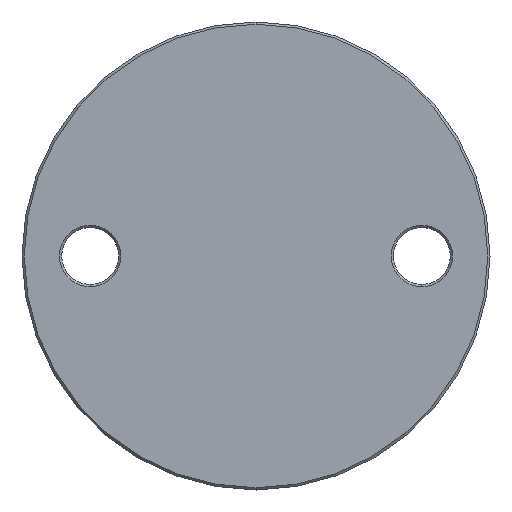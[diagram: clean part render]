
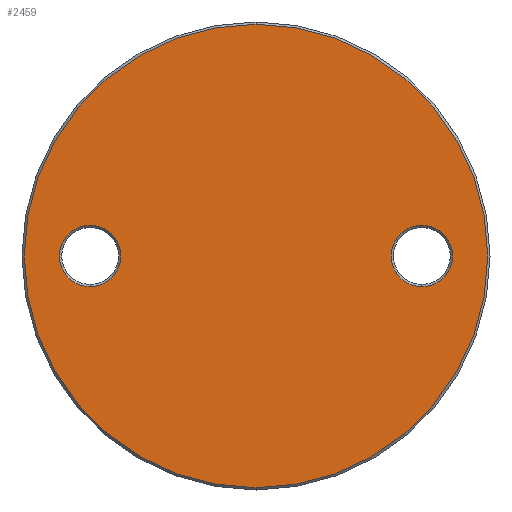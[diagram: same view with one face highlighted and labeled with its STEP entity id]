
A CAD part, front view. The second image highlights one B-rep face of the part: STEP entity #2459.
In plain terms, the highlighted planar face has unit normal (0, -1, 0).
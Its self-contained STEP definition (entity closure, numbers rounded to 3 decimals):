
#8 = DIRECTION ( 'NONE',  ( 0., 0., -1. ) ) ;
#97 = ORIENTED_EDGE ( 'NONE', *, *, #5757, .T. ) ;
#287 = AXIS2_PLACEMENT_3D ( 'NONE', #800, #1653, #2156 ) ;
#296 = CIRCLE ( 'NONE', #2071, 6.75 ) ;
#364 = EDGE_LOOP ( 'NONE', ( #3268, #1821 ) ) ;
#400 = AXIS2_PLACEMENT_3D ( 'NONE', #2338, #5631, #8 ) ;
#513 = AXIS2_PLACEMENT_3D ( 'NONE', #4455, #4931, #2954 ) ;
#537 = CARTESIAN_POINT ( 'NONE',  ( 36.5, -3., 0. ) ) ;
#752 = AXIS2_PLACEMENT_3D ( 'NONE', #1501, #3403, #4323 ) ;
#800 = CARTESIAN_POINT ( 'NONE',  ( 0., -3., 0. ) ) ;
#1038 = EDGE_LOOP ( 'NONE', ( #3586, #3197 ) ) ;
#1058 = ORIENTED_EDGE ( 'NONE', *, *, #3004, .T. ) ;
#1260 = FACE_OUTER_BOUND ( 'NONE', #364, .T. ) ;
#1311 = CARTESIAN_POINT ( 'NONE',  ( 0., -3., -51. ) ) ;
#1501 = CARTESIAN_POINT ( 'NONE',  ( 0., -3., 0. ) ) ;
#1505 = DIRECTION ( 'NONE',  ( 0., 0., -1. ) ) ;
#1526 = VERTEX_POINT ( 'NONE', #2103 ) ;
#1560 = CARTESIAN_POINT ( 'NONE',  ( -36.5, -3., 0. ) ) ;
#1608 = PLANE ( 'NONE',  #513 ) ;
#1653 = DIRECTION ( 'NONE',  ( 0., -1., 0. ) ) ;
#1821 = ORIENTED_EDGE ( 'NONE', *, *, #3638, .T. ) ;
#1856 = CIRCLE ( 'NONE', #752, 51. ) ;
#2071 = AXIS2_PLACEMENT_3D ( 'NONE', #537, #3865, #1505 ) ;
#2103 = CARTESIAN_POINT ( 'NONE',  ( -36.5, -3., -6.75 ) ) ;
#2156 = DIRECTION ( 'NONE',  ( 0., 0., -1. ) ) ;
#2318 = VERTEX_POINT ( 'NONE', #5147 ) ;
#2338 = CARTESIAN_POINT ( 'NONE',  ( -36.5, -3., 0. ) ) ;
#2345 = EDGE_CURVE ( 'NONE', #2687, #6047, #1856, .T. ) ;
#2459 = ADVANCED_FACE ( 'NONE', ( #5749, #5525, #1260 ), #1608, .T. ) ;
#2591 = CIRCLE ( 'NONE', #287, 51. ) ;
#2618 = VERTEX_POINT ( 'NONE', #5983 ) ;
#2687 = VERTEX_POINT ( 'NONE', #4230 ) ;
#2954 = DIRECTION ( 'NONE',  ( 0., 0., -1. ) ) ;
#3004 = EDGE_CURVE ( 'NONE', #2318, #1526, #3396, .T. ) ;
#3091 = EDGE_LOOP ( 'NONE', ( #97, #1058 ) ) ;
#3109 = CARTESIAN_POINT ( 'NONE',  ( 36.5, -3., 6.75 ) ) ;
#3145 = CIRCLE ( 'NONE', #3874, 6.75 ) ;
#3197 = ORIENTED_EDGE ( 'NONE', *, *, #3345, .T. ) ;
#3268 = ORIENTED_EDGE ( 'NONE', *, *, #2345, .T. ) ;
#3345 = EDGE_CURVE ( 'NONE', #4216, #2618, #296, .T. ) ;
#3396 = CIRCLE ( 'NONE', #4983, 6.75 ) ;
#3403 = DIRECTION ( 'NONE',  ( 0., -1., 0. ) ) ;
#3586 = ORIENTED_EDGE ( 'NONE', *, *, #5245, .T. ) ;
#3638 = EDGE_CURVE ( 'NONE', #6047, #2687, #2591, .T. ) ;
#3864 = CIRCLE ( 'NONE', #400, 6.75 ) ;
#3865 = DIRECTION ( 'NONE',  ( 0., 1., 0. ) ) ;
#3874 = AXIS2_PLACEMENT_3D ( 'NONE', #5677, #6049, #4215 ) ;
#4215 = DIRECTION ( 'NONE',  ( 0., 0., -1. ) ) ;
#4216 = VERTEX_POINT ( 'NONE', #3109 ) ;
#4230 = CARTESIAN_POINT ( 'NONE',  ( 0., -3., 51. ) ) ;
#4323 = DIRECTION ( 'NONE',  ( 0., 0., -1. ) ) ;
#4388 = DIRECTION ( 'NONE',  ( 0., 0., -1. ) ) ;
#4455 = CARTESIAN_POINT ( 'NONE',  ( 0., -3., 51.5 ) ) ;
#4931 = DIRECTION ( 'NONE',  ( 0., -1., 0. ) ) ;
#4983 = AXIS2_PLACEMENT_3D ( 'NONE', #1560, #5362, #4388 ) ;
#5147 = CARTESIAN_POINT ( 'NONE',  ( -36.5, -3., 6.75 ) ) ;
#5245 = EDGE_CURVE ( 'NONE', #2618, #4216, #3145, .T. ) ;
#5362 = DIRECTION ( 'NONE',  ( 0., 1., 0. ) ) ;
#5525 = FACE_BOUND ( 'NONE', #3091, .T. ) ;
#5631 = DIRECTION ( 'NONE',  ( 0., 1., 0. ) ) ;
#5677 = CARTESIAN_POINT ( 'NONE',  ( 36.5, -3., 0. ) ) ;
#5749 = FACE_BOUND ( 'NONE', #1038, .T. ) ;
#5757 = EDGE_CURVE ( 'NONE', #1526, #2318, #3864, .T. ) ;
#5983 = CARTESIAN_POINT ( 'NONE',  ( 36.5, -3., -6.75 ) ) ;
#6047 = VERTEX_POINT ( 'NONE', #1311 ) ;
#6049 = DIRECTION ( 'NONE',  ( 0., 1., 0. ) ) ;
